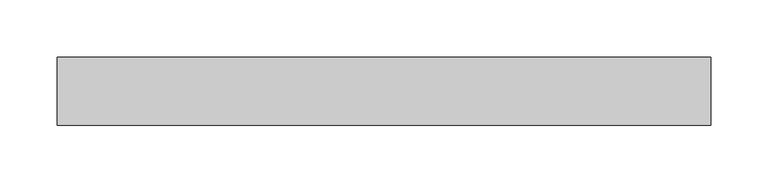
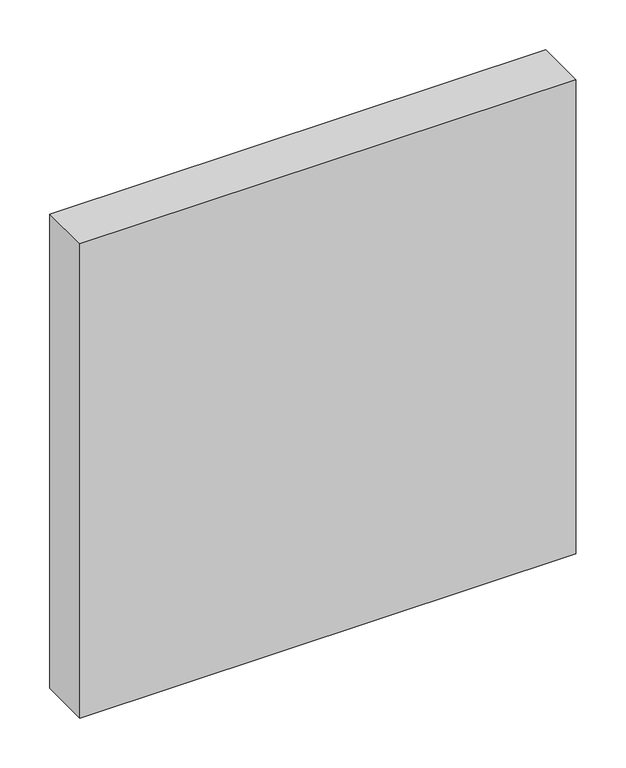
"""IFC4 building model written with IfcOpenShell, lengths in millimetres: plate geometry, Системная панель : Алюкобонд серый."""

from ifc_helpers import new_model, si_unit, origin, origin_with_axes, place, context, project, spatial, polyline, outline, extrude, source, transform, mapped, element, save


def plate_2938e2eb(model_context):
    return source(origin(), model_context, "Body", "SweptSolid", [
        extrude(outline(polyline([(286.7952706, -49.5), (-286.7952706, -49.5), (-286.7952706, 10.5), (286.7952706, 10.5), (286.7952706, -49.5)])), origin_with_axes(), (0.0, 0.0, 1.0), 580.0),
    ])


if __name__ == "__main__":
    model = new_model("IFC4")
    model_context = context("Model", 3, world=origin())
    ifc_project = project(units=[si_unit("LENGTHUNIT", "METRE", prefix="MILLI")], contexts=[model_context])
    site = spatial("IfcSite", under=ifc_project)
    building = spatial("IfcBuilding", under=site)
    placement = place(None, origin())
    plate_shape = plate_2938e2eb(model_context)
    element("IfcPlate", 1, ObjectType="Системная панель : Алюкобонд серый", at=placement, inside=building, context=model_context, shape_type="MappedRepresentation", body=[
        mapped(plate_shape, transform((0.0, 0.0, 0.0), x_axis=(1.0, 0.0, 0.0), y_axis=(0.0, 1.0, 0.0), z_axis=(0.0, 0.0, 1.0))),
    ])
    save(model, "model.ifc")
